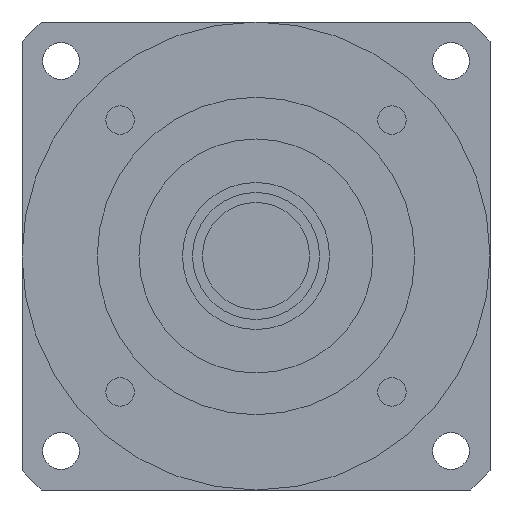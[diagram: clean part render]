
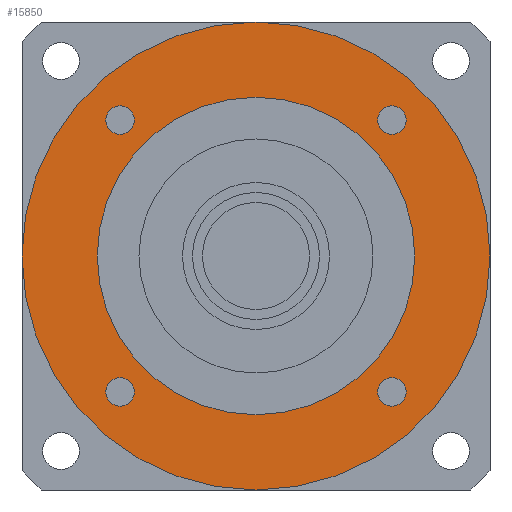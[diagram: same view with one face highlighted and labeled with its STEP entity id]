
A CAD part, left-side view. The second image highlights one B-rep face of the part: STEP entity #15850.
In plain terms, the highlighted planar face has unit normal (-1, 0, 0) as drawn and (0, 0, -1) by its records, which use the part's own axes.
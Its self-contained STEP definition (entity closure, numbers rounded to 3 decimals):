
#14690=CARTESIAN_POINT('',(-70.,0.,-84.701));
#14700=VERTEX_POINT('',#14690);
#14730=CARTESIAN_POINT('',(0.,0.,
-84.701));
#14740=DIRECTION('',(0.,0.,-1.));
#14750=DIRECTION('',(0.,-1.,0.));
#14760=AXIS2_PLACEMENT_3D('',#14730,#14740,#14750);
#14770=CIRCLE('',#14760,70.);
#14780=CARTESIAN_POINT('',(70.,0.,-84.701));
#14790=VERTEX_POINT('',#14780);
#14800=EDGE_CURVE('',#14700,#14790,#14770,.T.);
#14920=CARTESIAN_POINT('',(0.,0.,
-84.701));
#14930=DIRECTION('',(0.,0.,-1.));
#14940=DIRECTION('',(1.,0.,0.));
#14950=AXIS2_PLACEMENT_3D('',#14920,#14930,#14940);
#14960=PLANE('',#14950);
#14970=CARTESIAN_POINT('',(40.659,40.659,-84.701));
#14980=DIRECTION('',(0.,0.,-1.));
#14990=DIRECTION('',(0.,1.,0.));
#15000=AXIS2_PLACEMENT_3D('',#14970,#14980,#14990);
#15010=CIRCLE('',#15000,4.25);
#15020=CARTESIAN_POINT('',(40.659,44.909,-84.701));
#15030=VERTEX_POINT('',#15020);
#15040=CARTESIAN_POINT('',(40.659,36.409,-84.701));
#15050=VERTEX_POINT('',#15040);
#15060=EDGE_CURVE('',#15030,#15050,#15010,.T.);
#15070=ORIENTED_EDGE('',*,*,#15060,.F.);
#15080=EDGE_CURVE('',#15050,#15030,#15010,.T.);
#15090=ORIENTED_EDGE('',*,*,#15080,.F.);
#15100=EDGE_LOOP('',(#15090,#15070));
#15110=FACE_BOUND('',#15100,.T.);
#15120=CARTESIAN_POINT('',(-40.659,40.659,-84.701));
#15130=DIRECTION('',(0.,0.,-1.));
#15140=DIRECTION('',(-1.,0.,0.));
#15150=AXIS2_PLACEMENT_3D('',#15120,#15130,#15140);
#15160=CIRCLE('',#15150,4.25);
#15170=CARTESIAN_POINT('',(-44.909,40.659,-84.701));
#15180=VERTEX_POINT('',#15170);
#15190=CARTESIAN_POINT('',(-36.409,40.659,-84.701));
#15200=VERTEX_POINT('',#15190);
#15210=EDGE_CURVE('',#15180,#15200,#15160,.T.);
#15220=ORIENTED_EDGE('',*,*,#15210,.F.);
#15230=EDGE_CURVE('',#15200,#15180,#15160,.T.);
#15240=ORIENTED_EDGE('',*,*,#15230,.F.);
#15250=EDGE_LOOP('',(#15240,#15220));
#15260=FACE_BOUND('',#15250,.T.);
#15270=CARTESIAN_POINT('',(-40.659,-40.659,-84.701))
;
#15280=DIRECTION('',(0.,0.,-1.));
#15290=DIRECTION('',(0.,-1.,0.));
#15300=AXIS2_PLACEMENT_3D('',#15270,#15280,#15290);
#15310=CIRCLE('',#15300,4.25);
#15320=CARTESIAN_POINT('',(-40.659,-44.909,-84.701))
;
#15330=VERTEX_POINT('',#15320);
#15340=CARTESIAN_POINT('',(-40.659,-36.409,-84.701))
;
#15350=VERTEX_POINT('',#15340);
#15360=EDGE_CURVE('',#15330,#15350,#15310,.T.);
#15370=ORIENTED_EDGE('',*,*,#15360,.F.);
#15380=EDGE_CURVE('',#15350,#15330,#15310,.T.);
#15390=ORIENTED_EDGE('',*,*,#15380,.F.);
#15400=EDGE_LOOP('',(#15390,#15370));
#15410=FACE_BOUND('',#15400,.T.);
#15420=CARTESIAN_POINT('',(0.,0.,
-84.701));
#15430=DIRECTION('',(0.,0.,1.));
#15440=DIRECTION('',(0.,1.,0.));
#15450=AXIS2_PLACEMENT_3D('',#15420,#15430,#15440);
#15460=CIRCLE('',#15450,47.5);
#15470=CARTESIAN_POINT('',(-47.5,0.,-84.701));
#15480=VERTEX_POINT('',#15470);
#15490=CARTESIAN_POINT('',(47.5,0.,-84.701));
#15500=VERTEX_POINT('',#15490);
#15510=EDGE_CURVE('',#15480,#15500,#15460,.T.);
#15520=ORIENTED_EDGE('',*,*,#15510,.T.);
#15530=CARTESIAN_POINT('',(0.,47.5,-84.701));
#15540=VERTEX_POINT('',#15530);
#15550=EDGE_CURVE('',#15540,#15480,#15460,.T.);
#15560=ORIENTED_EDGE('',*,*,#15550,.T.);
#15570=EDGE_CURVE('',#15500,#15540,#15460,.T.);
#15580=ORIENTED_EDGE('',*,*,#15570,.T.);
#15590=EDGE_LOOP('',(#15580,#15560,#15520));
#15600=FACE_BOUND('',#15590,.T.);
#15610=CARTESIAN_POINT('',(40.659,-40.659,-84.701));
#15620=DIRECTION('',(0.,0.,-1.));
#15630=DIRECTION('',(1.,0.,0.));
#15640=AXIS2_PLACEMENT_3D('',#15610,#15620,#15630);
#15650=CIRCLE('',#15640,4.25);
#15660=CARTESIAN_POINT('',(44.909,-40.659,-84.701));
#15670=VERTEX_POINT('',#15660);
#15680=CARTESIAN_POINT('',(36.409,-40.659,-84.701));
#15690=VERTEX_POINT('',#15680);
#15700=EDGE_CURVE('',#15670,#15690,#15650,.T.);
#15710=ORIENTED_EDGE('',*,*,#15700,.F.);
#15720=EDGE_CURVE('',#15690,#15670,#15650,.T.);
#15730=ORIENTED_EDGE('',*,*,#15720,.F.);
#15740=EDGE_LOOP('',(#15730,#15710));
#15750=FACE_BOUND('',#15740,.T.);
#15760=ORIENTED_EDGE('',*,*,#14800,.T.);
#15770=CARTESIAN_POINT('',(0.,-70.,-84.701));
#15780=VERTEX_POINT('',#15770);
#15790=EDGE_CURVE('',#15780,#14700,#14770,.T.);
#15800=ORIENTED_EDGE('',*,*,#15790,.T.);
#15810=EDGE_CURVE('',#14790,#15780,#14770,.T.);
#15820=ORIENTED_EDGE('',*,*,#15810,.T.);
#15830=EDGE_LOOP('',(#15820,#15800,#15760));
#15840=FACE_OUTER_BOUND('',#15830,.T.);
#15850=ADVANCED_FACE('',(#15110,#15260,#15410,#15600,#15750,#15840),
#14960,.T.);
